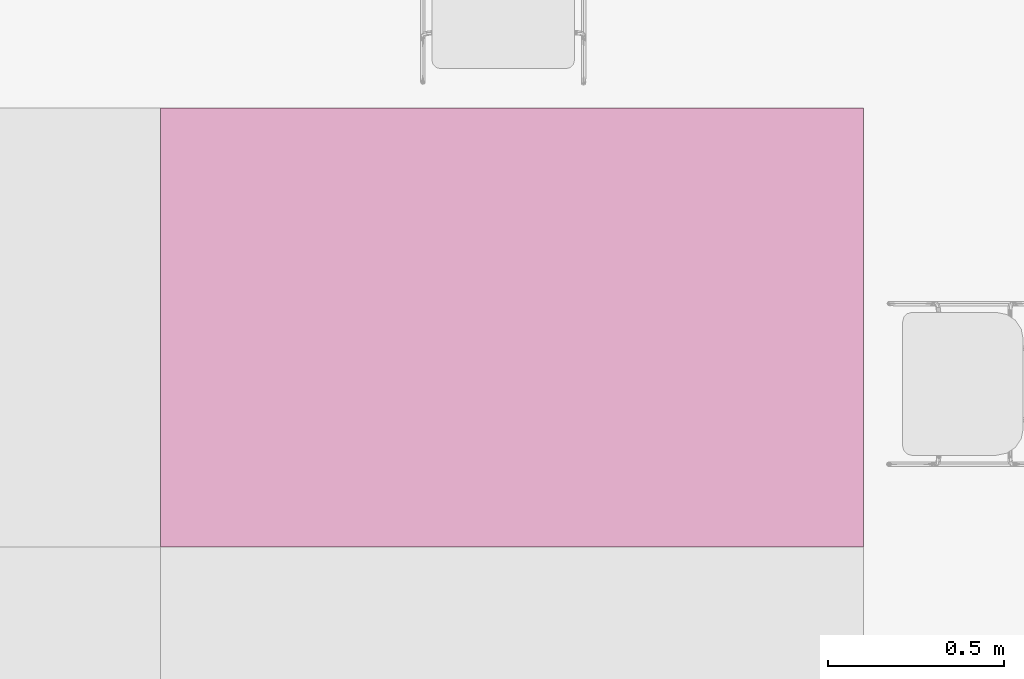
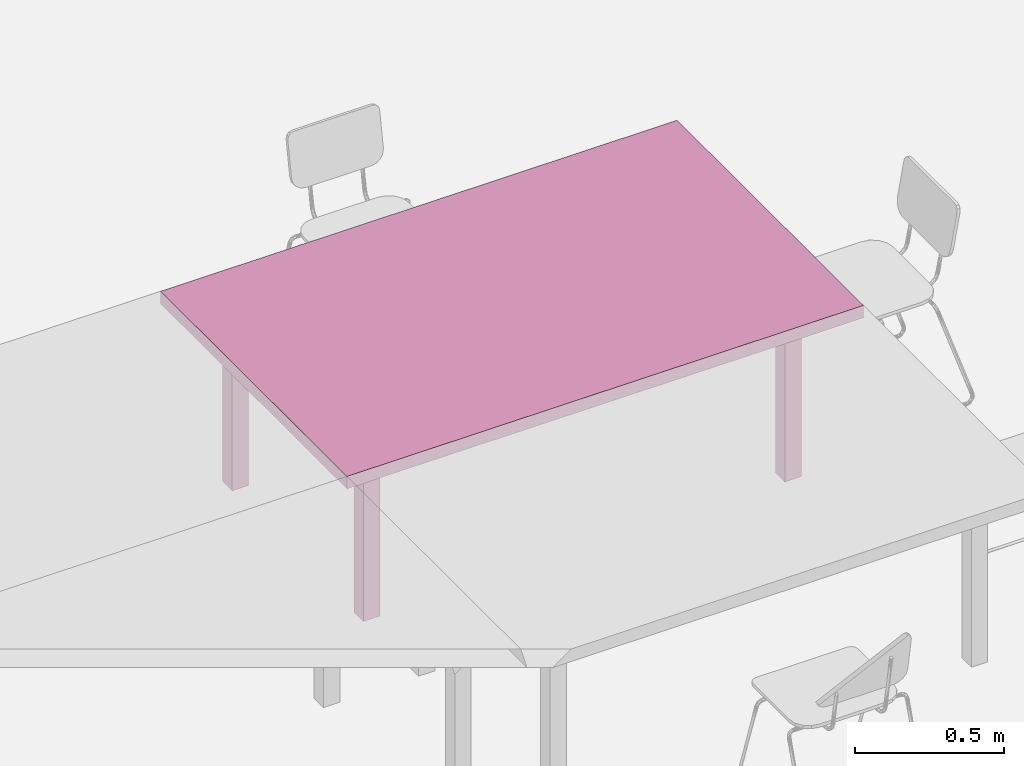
# One storey, part 23 of 27: 1 furnishing.
"""IFC2X3 building model written with IfcOpenShell, lengths in centimetres."""

from ifc_helpers import new_model, entity, si_unit, converted_unit, derived_unit, direction, frame, frame_2d, origin, origin_2d_with_axis, place, context, subcontext, project, spatial, rectangle, extrude, source, transform, mapped, material, material_list, type_object, type_shapes, element, save


model = new_model("IFC2X3")

# Units and contexts
model_context = context("Model", 3, precision=0.001, world=origin(), true_north=direction((6.12303176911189e-17, 1.0)))
body_context = subcontext(model_context, "Body", "Model", "MODEL_VIEW")
ifc_project = project(units=[si_unit("LENGTHUNIT", "METRE", prefix="CENTI"), si_unit("AREAUNIT", "SQUARE_METRE"), si_unit("VOLUMEUNIT", "CUBIC_METRE"), converted_unit("PLANEANGLEUNIT", "DEGREE", entity("IfcRatioMeasure", 0.0174532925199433), si_unit("PLANEANGLEUNIT", "RADIAN"), dimensions=[0, 0, 0, 0, 0, 0, 0]), si_unit("MASSUNIT", "GRAM", prefix="KILO"), derived_unit("MASSDENSITYUNIT", [(si_unit("MASSUNIT", "GRAM", prefix="KILO"), 1), (si_unit("LENGTHUNIT", "METRE"), -3)]), derived_unit("MOMENTOFINERTIAUNIT", [(si_unit("LENGTHUNIT", "METRE"), 4)]), si_unit("TIMEUNIT", "SECOND"), si_unit("FREQUENCYUNIT", "HERTZ"), si_unit("THERMODYNAMICTEMPERATUREUNIT", "DEGREE_CELSIUS"), derived_unit("THERMALTRANSMITTANCEUNIT", [(si_unit("MASSUNIT", "GRAM", prefix="KILO"), 1), (si_unit("THERMODYNAMICTEMPERATUREUNIT", "KELVIN"), -1), (si_unit("TIMEUNIT", "SECOND"), -3)]), derived_unit("VOLUMETRICFLOWRATEUNIT", [(si_unit("LENGTHUNIT", "METRE"), 3), (si_unit("TIMEUNIT", "SECOND"), -1)]), si_unit("ELECTRICCURRENTUNIT", "AMPERE"), si_unit("ELECTRICVOLTAGEUNIT", "VOLT"), si_unit("POWERUNIT", "WATT"), si_unit("FORCEUNIT", "NEWTON", prefix="KILO"), si_unit("ILLUMINANCEUNIT", "LUX"), si_unit("LUMINOUSFLUXUNIT", "LUMEN"), si_unit("LUMINOUSINTENSITYUNIT", "CANDELA"), derived_unit("USERDEFINED", [(si_unit("MASSUNIT", "GRAM", prefix="KILO"), -1), (si_unit("LENGTHUNIT", "METRE"), -2), (si_unit("TIMEUNIT", "SECOND"), 3), (si_unit("LUMINOUSFLUXUNIT", "LUMEN"), 1)]), derived_unit("LINEARVELOCITYUNIT", [(si_unit("LENGTHUNIT", "METRE"), 1), (si_unit("TIMEUNIT", "SECOND"), -1)]), si_unit("PRESSUREUNIT", "PASCAL"), derived_unit("USERDEFINED", [(si_unit("LENGTHUNIT", "METRE"), -2), (si_unit("MASSUNIT", "GRAM", prefix="KILO"), 1), (si_unit("TIMEUNIT", "SECOND"), -2)]), derived_unit("LINEARFORCEUNIT", [(si_unit("MASSUNIT", "GRAM", prefix="KILO"), 1), (si_unit("LENGTHUNIT", "METRE"), 1), (si_unit("TIMEUNIT", "SECOND"), -2), (si_unit("LENGTHUNIT", "METRE"), -1)]), derived_unit("PLANARFORCEUNIT", [(si_unit("MASSUNIT", "GRAM", prefix="KILO"), 1), (si_unit("LENGTHUNIT", "METRE"), 1), (si_unit("TIMEUNIT", "SECOND"), -2), (si_unit("LENGTHUNIT", "METRE"), -2)])], contexts=[model_context])

# Site, building, storey
site_placement = place(None, origin())
site = spatial("IfcSite", under=ifc_project, at=site_placement, Name="Default", CompositionType="ELEMENT")
building_placement = place(site_placement, origin())
building = spatial("IfcBuilding", under=site, at=building_placement, CompositionType="ELEMENT")
storey_placement = place(building_placement, origin())
storey = spatial("IfcBuildingStorey", under=building, at=storey_placement, Name="Poziom 0 A +/-0,00", CompositionType="ELEMENT", Elevation=3.38570427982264e-11)

# Furnishing
ifc_material = material(Name="MDF biały")
ifc_material_list = material_list([ifc_material, ifc_material, ifc_material, ifc_material, ifc_material])
furniture_type = type_object("IfcFurnitureType", Name="Stół - prostokątny:2000 x 1250", material=ifc_material_list)
shared_shape = source(origin(), body_context, "Body", "SweptSolid", [
    extrude(rectangle(XDim=200.0, YDim=125.0, at=origin_2d_with_axis()), frame((0.0, 0.0, 68.92), z_axis=(0.0, 0.0, 1.0), x_axis=(-1.0, 0.0, 0.0)), (0.0, 0.0, 1.0), 5.08),
    extrude(rectangle(XDim=6.35000000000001, YDim=6.35000000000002, at=origin_2d_with_axis()), frame((81.585, 44.0850000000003, 0.0), z_axis=(0.0, 0.0, 1.0), x_axis=(0.0, -1.0, 0.0)), (0.0, 0.0, 1.0), 68.92),
    extrude(rectangle(XDim=6.34999999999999, YDim=6.35000000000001, at=frame_2d((1.35447209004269e-14, -6.88338275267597e-15), x_axis=(1.0, 0.0))), frame((-81.5849999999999, 44.0850000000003, 0.0), z_axis=(0.0, 0.0, 1.0), x_axis=(-1.0, 0.0, 0.0)), (0.0, 0.0, 1.0), 68.92),
    extrude(rectangle(XDim=6.35000000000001, YDim=6.34999999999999, at=origin_2d_with_axis()), frame((-81.585, -44.0850000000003, 0.0), z_axis=(0.0, 0.0, 1.0), x_axis=(0.0, 1.0, 0.0)), (0.0, 0.0, 1.0), 68.92),
    extrude(rectangle(XDim=6.35000000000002, YDim=6.35000000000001, at=frame_2d((0.0, -6.88338275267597e-15), x_axis=(1.0, 0.0))), frame((81.585, -44.0850000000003, 0.0)), (0.0, 0.0, 1.0), 68.92),
])
type_shapes(furniture_type, [shared_shape])
furnishing_placement = place(storey_placement, frame((-2606.7650963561, 823.105958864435, 0.6)))
element("IfcFurnishingElement", 1, at=furnishing_placement, inside=storey, type_object=furniture_type, material=ifc_material, Name="Stół - prostokątny:2000 x 1250", ObjectType="Stół - prostokątny:2000 x 1250", context=body_context, shape_type="MappedRepresentation", body=[
    mapped(shared_shape, transform((0.0, 0.0, 0.0), scale=1.0)),
])

save(model, "model.ifc")
